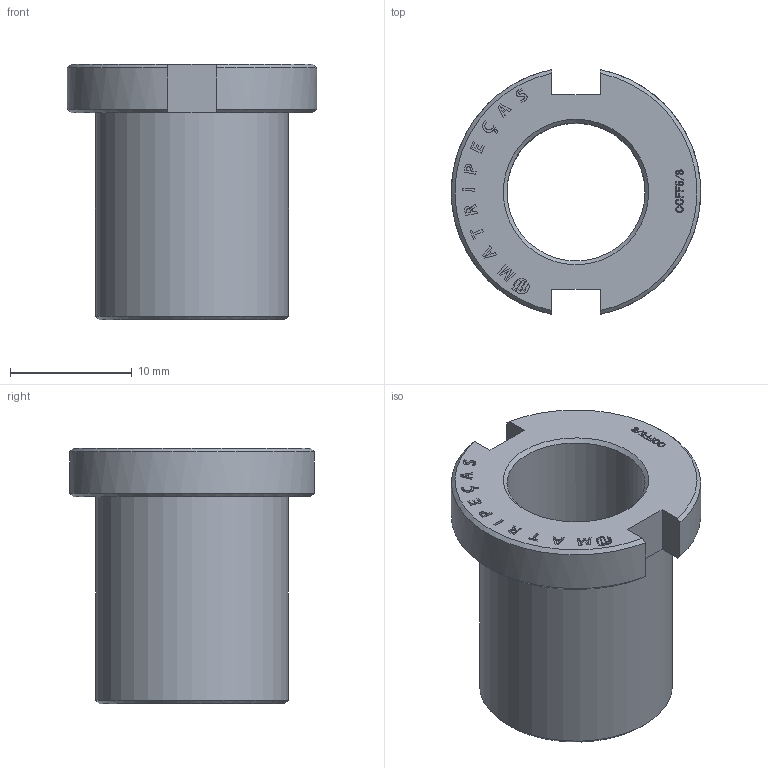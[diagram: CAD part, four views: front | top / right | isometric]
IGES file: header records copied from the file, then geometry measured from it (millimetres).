
Start section: C
Global section: file name: CCFF5-8.igs; native system: By Siemens PLM Incorporated; preprocessor: XPlus GENERIC/IGES 18.0.17; author: Author; organization: Title; date: 20240719.104511; units: millimetre
Bounding box: 20.48 x 20.11 x 21 mm (x, y, z)
Volume: 2515.4 mm3; surface area: 2291.5 mm2
Topology: 1 solids, 1 shells, 252 faces, 672 edges, 448 vertices
Faces by surface type: bspline 252
